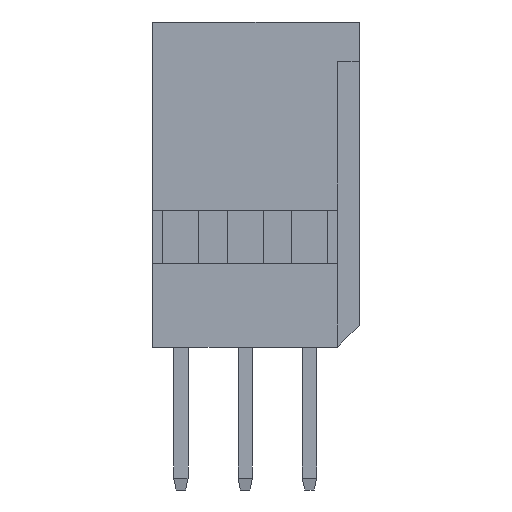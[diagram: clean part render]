
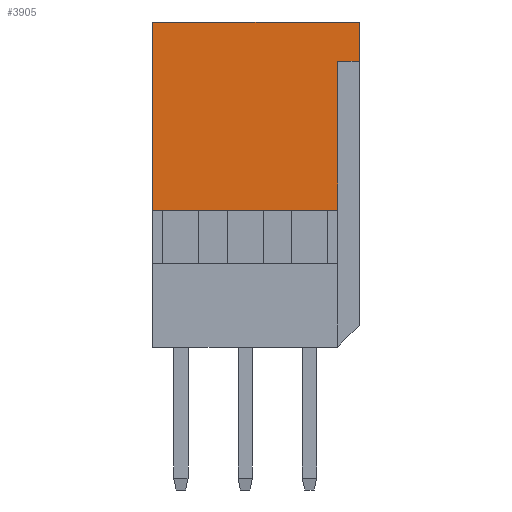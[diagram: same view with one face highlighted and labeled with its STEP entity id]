
A CAD part, front view. The second image highlights one B-rep face of the part: STEP entity #3905.
In plain terms, the highlighted planar face has unit normal (0, -1, 0).
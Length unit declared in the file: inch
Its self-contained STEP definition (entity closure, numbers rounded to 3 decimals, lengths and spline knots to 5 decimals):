
#1139=CARTESIAN_POINT('',(-0.48309,-0.22408,-0.31102));
#1140=VERTEX_POINT('',#1139);
#1147=CARTESIAN_POINT('',(-0.78861,-0.22408,-0.31102));
#1148=VERTEX_POINT('',#1147);
#1149=CARTESIAN_POINT('',(-0.78861,-0.22408,-0.31102));
#1150=DIRECTION('',(1.0,0.0,0.0));
#1151=VECTOR('',#1150,0.30551);
#1152=LINE('',#1149,#1151);
#1153=EDGE_CURVE('',#1148,#1140,#1152,.T.);
#3859=CARTESIAN_POINT('',(-0.78861,-0.22408,0.0));
#3860=DIRECTION('',(0.0,-1.0,0.0));
#3861=DIRECTION('',(0.0,0.0,-1.0));
#3862=AXIS2_PLACEMENT_3D('',#3859,#3860,#3861);
#3863=PLANE('',#3862);
#3864=ORIENTED_EDGE('',*,*,#1153,.T.);
#3865=CARTESIAN_POINT('',(-0.48309,-0.22408,-0.06496));
#3866=VERTEX_POINT('',#3865);
#3867=CARTESIAN_POINT('',(-0.48309,-0.22408,-0.31102));
#3868=DIRECTION('',(0.0,0.0,1.0));
#3869=VECTOR('',#3868,0.24606);
#3870=LINE('',#3867,#3869);
#3871=EDGE_CURVE('',#1140,#3866,#3870,.T.);
#3872=ORIENTED_EDGE('',*,*,#3871,.T.);
#3873=CARTESIAN_POINT('',(-0.44727,-0.22408,-0.06496));
#3874=VERTEX_POINT('',#3873);
#3875=CARTESIAN_POINT('',(-0.48309,-0.22408,-0.06496));
#3876=DIRECTION('',(1.0,0.0,0.0));
#3877=VECTOR('',#3876,0.03583);
#3878=LINE('',#3875,#3877);
#3879=EDGE_CURVE('',#3866,#3874,#3878,.T.);
#3880=ORIENTED_EDGE('',*,*,#3879,.T.);
#3881=CARTESIAN_POINT('',(-0.44727,-0.22408,0.0));
#3882=VERTEX_POINT('',#3881);
#3883=CARTESIAN_POINT('',(-0.44727,-0.22408,0.0));
#3884=DIRECTION('',(0.0,0.0,-1.0));
#3885=VECTOR('',#3884,0.06496);
#3886=LINE('',#3883,#3885);
#3887=EDGE_CURVE('',#3882,#3874,#3886,.T.);
#3888=ORIENTED_EDGE('',*,*,#3887,.F.);
#3889=CARTESIAN_POINT('',(-0.78861,-0.22408,0.0));
#3890=VERTEX_POINT('',#3889);
#3891=CARTESIAN_POINT('',(-0.78861,-0.22408,0.0));
#3892=DIRECTION('',(1.0,0.0,0.0));
#3893=VECTOR('',#3892,0.34134);
#3894=LINE('',#3891,#3893);
#3895=EDGE_CURVE('',#3890,#3882,#3894,.T.);
#3896=ORIENTED_EDGE('',*,*,#3895,.F.);
#3897=CARTESIAN_POINT('',(-0.78861,-0.22408,0.0));
#3898=DIRECTION('',(0.0,0.0,-1.0));
#3899=VECTOR('',#3898,0.31102);
#3900=LINE('',#3897,#3899);
#3901=EDGE_CURVE('',#3890,#1148,#3900,.T.);
#3902=ORIENTED_EDGE('',*,*,#3901,.T.);
#3903=EDGE_LOOP('',(#3864,#3872,#3880,#3888,#3896,#3902));
#3904=FACE_OUTER_BOUND('',#3903,.T.);
#3905=ADVANCED_FACE('',(#3904),#3863,.T.);
